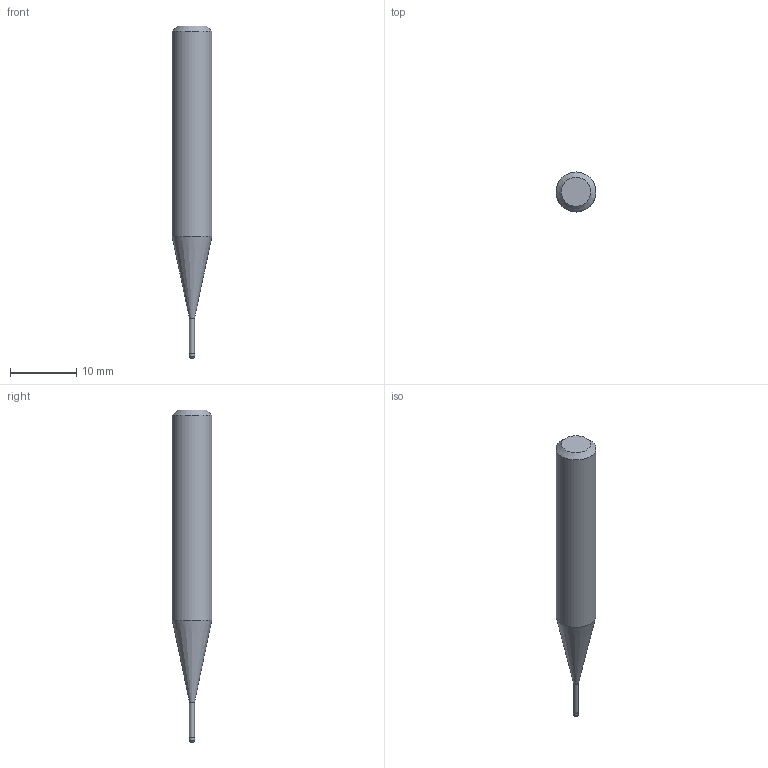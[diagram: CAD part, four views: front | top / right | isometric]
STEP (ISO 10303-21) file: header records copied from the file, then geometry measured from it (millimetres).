
FILE_DESCRIPTION((''),'2;1');
FILE_NAME('C:\Users\nsx150\AppData\Local\Temp\Mastercam 2021\17T8Q8S9EB\TEMP.step','2021-04-21T14:32:37',(''),(''),'STEP Write','Mastercam 2021 ... CNC Software, Inc.','');
FILE_SCHEMA(('AUTOMOTIVE_DESIGN'));
Length unit declared in the file: millimetre
Products named in the file (1): None
Bounding box: 6 x 6 x 50 mm (x, y, z)
Volume: 1025.5 mm3; surface area: 765.1 mm2
Topology: 2 solids, 2 shells, 10 faces, 14 edges, 8 vertices
Faces by surface type: plane 4, cylinder 3, cone 2, torus 1
Full cylindrical faces by diameter (mm): 0.76 x1, 0.8 x1, 6 x1
Entity records: 232 total; most frequent: DIRECTION 40, CARTESIAN_POINT 28, AXIS2_PLACEMENT_3D 20, ORIENTED_EDGE 16, EDGE_LOOP 16, STYLED_ITEM 13, ADVANCED_FACE 10, FACE_BOUND 10
